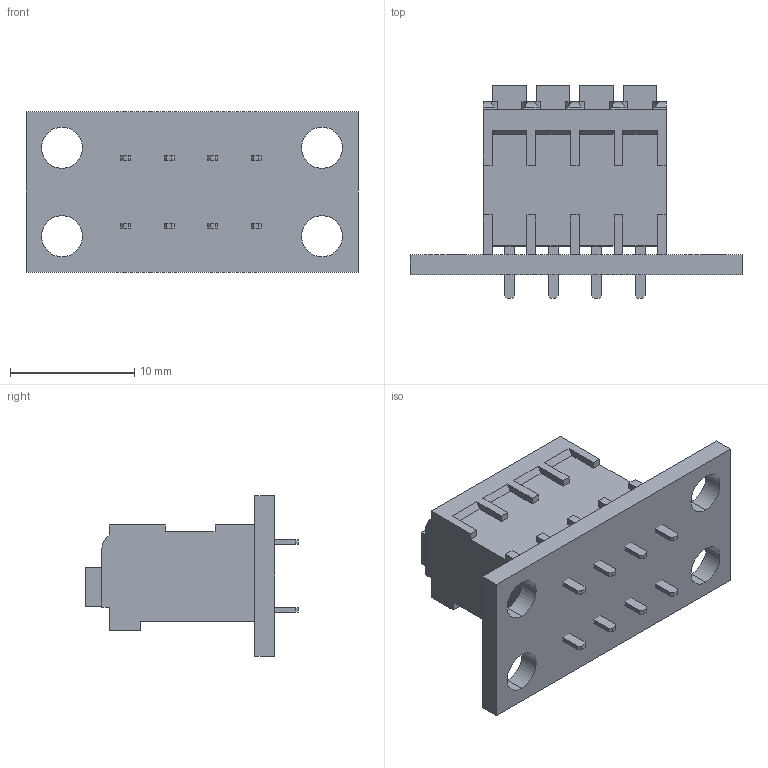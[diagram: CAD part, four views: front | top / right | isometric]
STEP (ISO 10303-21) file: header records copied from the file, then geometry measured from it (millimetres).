
FILE_DESCRIPTION (( 'STEP AP214' ), '1' );
FILE_NAME ('CAN_Connector_15-676778.STEP', '2017-08-16T18:55:18', ( 'ART' ), ( 'Microsoft' ), 'SwSTEP 2.0', 'SolidWorks 2015', '' );
FILE_SCHEMA (( 'AUTOMOTIVE_DESIGN' ));
Length unit declared in the file: inch
Products named in the file (1): CAN_Connector_15-676778
Bounding box: 26.7 x 17.1 x 12.9 mm (x, y, z)
Volume: 1753.1 mm3; surface area: 2055.4 mm2
Topology: 2 solids, 2 shells, 264 faces, 736 edges, 488 vertices
Faces by surface type: plane 226, cylinder 38
Entity records: 11899 total; most frequent: CARTESIAN_POINT 1645, ORIENTED_EDGE 1472, DIRECTION 1302, EDGE_CURVE 736, VECTOR 612, LINE 612, VERTEX_POINT 488, AXIS2_PLACEMENT_3D 345
